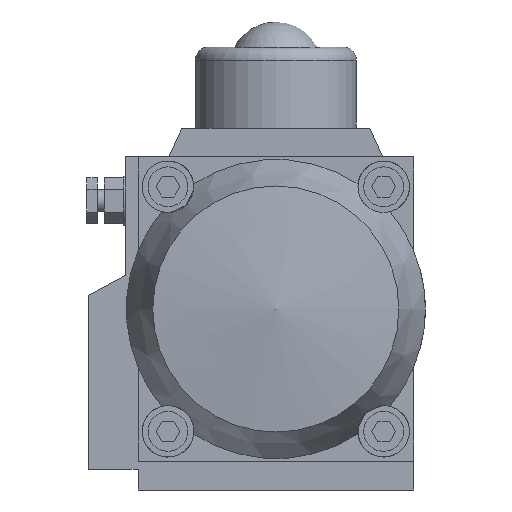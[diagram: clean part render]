
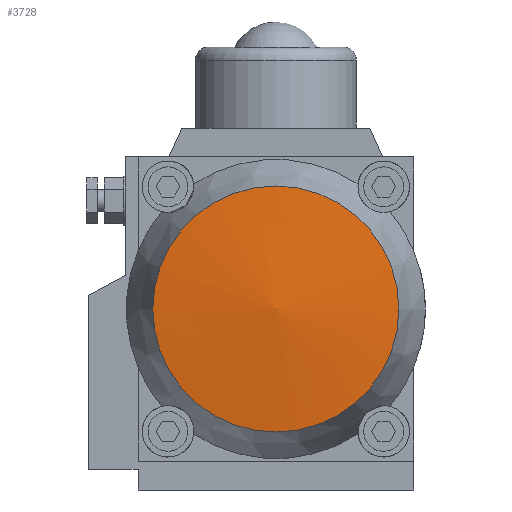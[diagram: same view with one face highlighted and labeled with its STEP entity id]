
A CAD part, front view. The second image highlights one B-rep face of the part: STEP entity #3728.
In plain terms, the highlighted conical face has half-angle 84.028 degrees and reference radius 15.177 mm.
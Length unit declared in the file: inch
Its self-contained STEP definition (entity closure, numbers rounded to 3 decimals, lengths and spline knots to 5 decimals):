
#3708=CARTESIAN_POINT('',(3.0175,-6.413,1.5575));
#3709=VERTEX_POINT('',#3708);
#3710=CARTESIAN_POINT('',(1.8225,-6.413,1.5575));
#3711=DIRECTION('',(0.0,-1.0,0.0));
#3712=DIRECTION('',(1.0,0.0,0.0));
#3713=AXIS2_PLACEMENT_3D('',#3710,#3711,#3712);
#3714=CIRCLE('',#3713,1.195);
#3715=EDGE_CURVE('',#3709,#3709,#3714,.T.);
#3720=CARTESIAN_POINT('',(1.8225,-6.4755,1.5575));
#3721=DIRECTION('',(0.0,1.0,0.0));
#3722=DIRECTION('',(1.0,0.0,0.0));
#3723=AXIS2_PLACEMENT_3D('',#3720,#3721,#3722);
#3724=CONICAL_SURFACE('',#3723,0.5975,84.028);
#3725=ORIENTED_EDGE('',*,*,#3715,.T.);
#3726=EDGE_LOOP('',(#3725));
#3727=FACE_OUTER_BOUND('',#3726,.T.);
#3728=ADVANCED_FACE('',(#3727),#3724,.T.);
